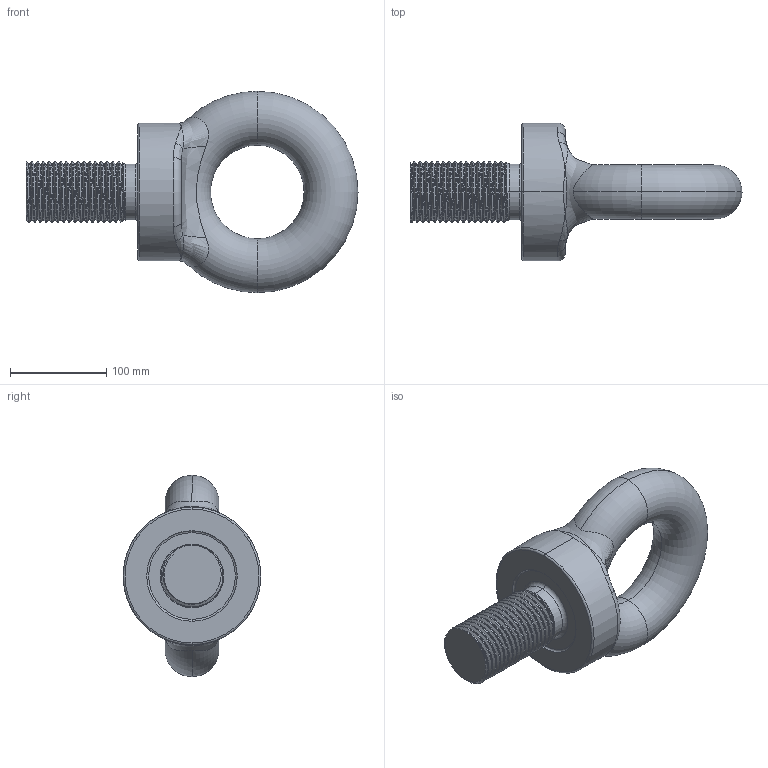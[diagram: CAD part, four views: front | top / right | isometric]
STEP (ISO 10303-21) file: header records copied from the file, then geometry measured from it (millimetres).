
FILE_DESCRIPTION (( 'STEP AP203' ), '1' );
FILE_NAME ('EBMC64.STEP', '2014-02-26T03:48:16', ( '' ), ( '' ), 'SwSTEP 2.0', 'SolidWorks 2012', '' );
FILE_SCHEMA (( 'CONFIG_CONTROL_DESIGN' ));
Length unit declared in the file: millimetre
Products named in the file (1): EBMC64
Bounding box: 344.5 x 143 x 209 mm (x, y, z)
Volume: 2175057.8 mm3; surface area: 149609.5 mm2
Topology: 1 solids, 1 shells, 78 faces, 212 edges, 128 vertices
Faces by surface type: cylinder 38, bspline 19, torus 12, plane 5, cone 4
Entity records: 14165 total; most frequent: CARTESIAN_POINT 12504, ORIENTED_EDGE 408, DIRECTION 260, EDGE_CURVE 204, VERTEX_POINT 128, AXIS2_PLACEMENT_3D 110, EDGE_LOOP 80, ADVANCED_FACE 78
